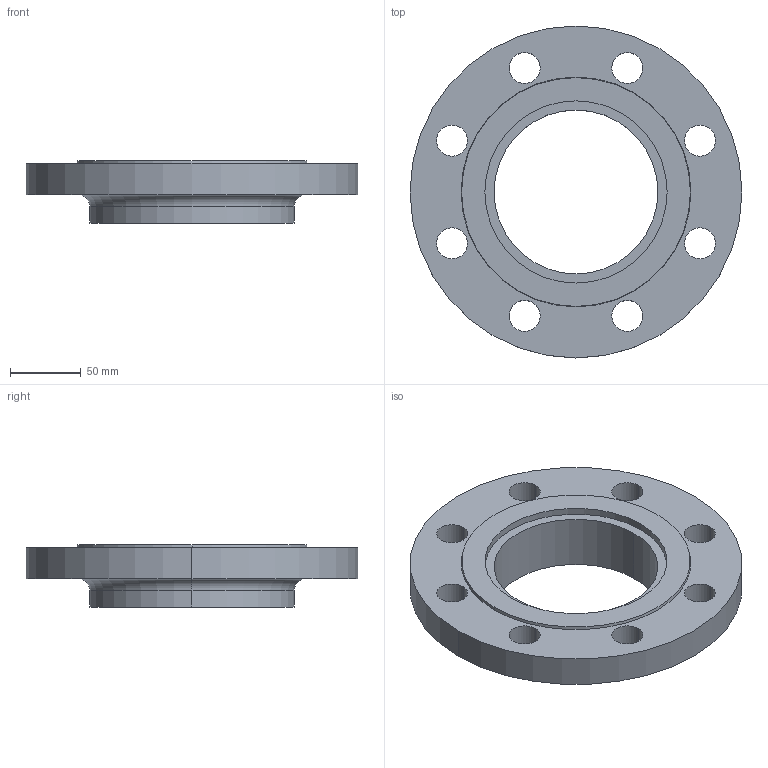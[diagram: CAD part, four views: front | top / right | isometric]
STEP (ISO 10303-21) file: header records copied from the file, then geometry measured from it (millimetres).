
FILE_DESCRIPTION (( 'STEP AP214' ), '1' );
FILE_NAME ('PN40 DN100 Type 12 - Type G Face.STEP', '2019-01-02T00:20:24', ( '' ), ( '' ), 'SwSTEP 2.0', 'SolidWorks 2019', '' );
FILE_SCHEMA (( 'AUTOMOTIVE_DESIGN' ));
Length unit declared in the file: millimetre
Products named in the file (1): PN40 DN100 Type 12 - Type G Face
Bounding box: 235 x 235 x 44 mm (x, y, z)
Volume: 787877 mm3; surface area: 112604.6 mm2
Topology: 1 solids, 1 shells, 33 faces, 82 edges, 54 vertices
Faces by surface type: cylinder 24, plane 5, torus 2, cone 2
Entity records: 1086 total; most frequent: DIRECTION 206, CARTESIAN_POINT 170, ORIENTED_EDGE 164, AXIS2_PLACEMENT_3D 90, EDGE_CURVE 82, CIRCLE 56, EDGE_LOOP 54, VERTEX_POINT 54
